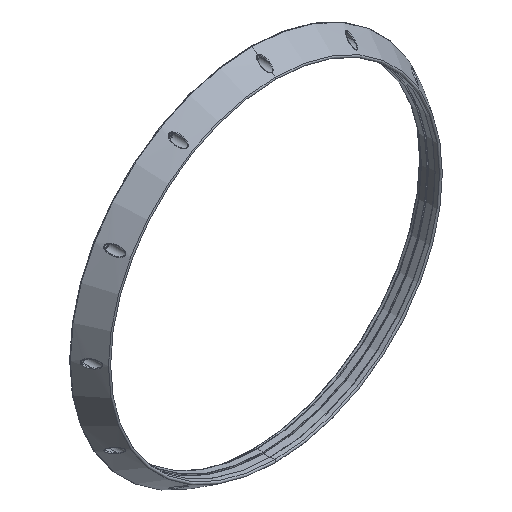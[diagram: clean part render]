
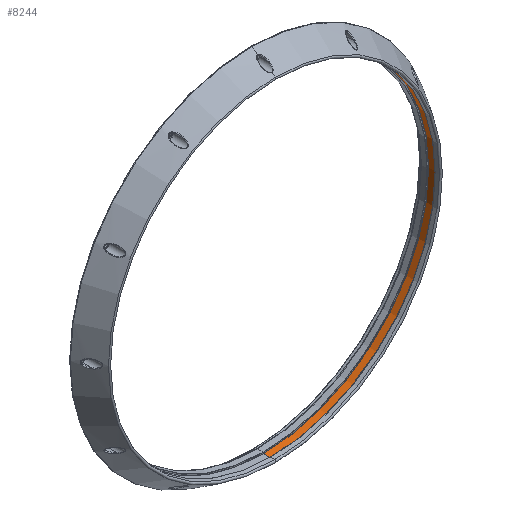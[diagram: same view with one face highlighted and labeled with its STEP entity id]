
A CAD part, isometric view. The second image highlights one B-rep face of the part: STEP entity #8244.
In plain terms, the highlighted cylindrical face has radius 267.7 mm (diameter 535.4 mm), a partial arc.
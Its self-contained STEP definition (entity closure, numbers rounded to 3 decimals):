
#8168=CARTESIAN_POINT('Vertex',(0.,418.942,-267.7)) ;
#8175=CARTESIAN_POINT('Vertex',(0.,418.942,267.7)) ;
#8190=CARTESIAN_POINT('Axis2P3D Location',(0.,418.942,0.)) ;
#8202=CARTESIAN_POINT('Axis2P3D Location',(0.,430.586,0.)) ;
#8207=CARTESIAN_POINT('Line Origine',(0.,424.742,-267.7)) ;
#8211=CARTESIAN_POINT('Vertex',(0.,430.542,-267.7)) ;
#8218=CARTESIAN_POINT('Vertex',(0.,430.542,267.7)) ;
#8221=CARTESIAN_POINT('Line Origine',(0.,424.742,267.7)) ;
#8233=CARTESIAN_POINT('Axis2P3D Location',(0.,430.542,0.)) ;
#8191=DIRECTION('Axis2P3D Direction',(0.,1.,0.)) ;
#8203=DIRECTION('Axis2P3D Direction',(0.,1.,0.)) ;
#8204=DIRECTION('Axis2P3D XDirection',(0.,0.,1.)) ;
#8208=DIRECTION('Vector Direction',(0.,1.,0.)) ;
#8222=DIRECTION('Vector Direction',(0.,1.,0.)) ;
#8234=DIRECTION('Axis2P3D Direction',(0.,1.,0.)) ;
#8192=AXIS2_PLACEMENT_3D('Circle Axis2P3D',#8190,#8191,$) ;
#8205=AXIS2_PLACEMENT_3D('Cylinder Axis2P3D',#8202,#8203,#8204) ;
#8235=AXIS2_PLACEMENT_3D('Circle Axis2P3D',#8233,#8234,$) ;
#8239=ORIENTED_EDGE('',*,*,#8194,.F.) ;
#8240=ORIENTED_EDGE('',*,*,#8225,.T.) ;
#8241=ORIENTED_EDGE('',*,*,#8237,.T.) ;
#8242=ORIENTED_EDGE('',*,*,#8213,.F.) ;
#8209=VECTOR('Line Direction',#8208,1.) ;
#8223=VECTOR('Line Direction',#8222,1.) ;
#8244=ADVANCED_FACE('Corps de pi\X2\00E8\X0\ce.2',(#8243),#8206,.F.) ;
#8193=CIRCLE('generated circle',#8192,267.7) ;
#8236=CIRCLE('generated circle',#8235,267.7) ;
#8206=CYLINDRICAL_SURFACE('generated cylinder',#8205,267.7) ;
#8194=EDGE_CURVE('',#8176,#8169,#8193,.T.) ;
#8213=EDGE_CURVE('',#8169,#8212,#8210,.T.) ;
#8225=EDGE_CURVE('',#8176,#8219,#8224,.T.) ;
#8237=EDGE_CURVE('',#8219,#8212,#8236,.T.) ;
#8238=EDGE_LOOP('',(#8239,#8240,#8241,#8242)) ;
#8243=FACE_OUTER_BOUND('',#8238,.T.) ;
#8210=LINE('Line',#8207,#8209) ;
#8224=LINE('Line',#8221,#8223) ;
#8169=VERTEX_POINT('',#8168) ;
#8176=VERTEX_POINT('',#8175) ;
#8212=VERTEX_POINT('',#8211) ;
#8219=VERTEX_POINT('',#8218) ;
